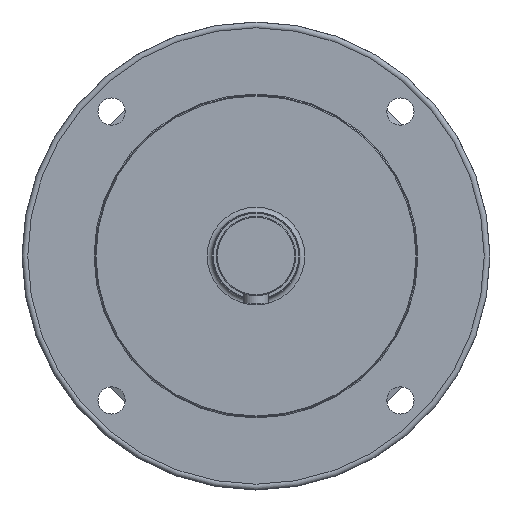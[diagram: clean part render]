
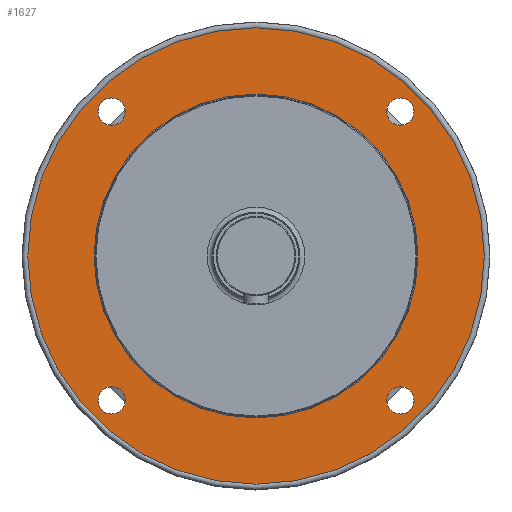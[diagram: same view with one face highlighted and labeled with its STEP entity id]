
A CAD part, front view. The second image highlights one B-rep face of the part: STEP entity #1627.
In plain terms, the highlighted planar face has unit normal (0, -1, 0).
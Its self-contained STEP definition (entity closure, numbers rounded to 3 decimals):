
#151=CARTESIAN_POINT('',(52.836,-274.729,-58.336));
#152=VERTEX_POINT('',#151);
#153=CARTESIAN_POINT('',(58.336,-274.729,-58.336));
#154=DIRECTION('',(0.0,1.0,0.0));
#155=DIRECTION('',(1.0,0.0,0.0));
#156=AXIS2_PLACEMENT_3D('',#153,#154,#155);
#157=CIRCLE('',#156,5.5);
#158=EDGE_CURVE('',#152,#152,#157,.T.);
#179=CARTESIAN_POINT('',(52.836,-274.729,58.336));
#180=VERTEX_POINT('',#179);
#181=CARTESIAN_POINT('',(58.336,-274.729,58.336));
#182=DIRECTION('',(0.0,1.0,0.0));
#183=DIRECTION('',(1.0,0.0,0.0));
#184=AXIS2_PLACEMENT_3D('',#181,#182,#183);
#185=CIRCLE('',#184,5.5);
#186=EDGE_CURVE('',#180,#180,#185,.T.);
#207=CARTESIAN_POINT('',(-63.836,-274.729,-58.336));
#208=VERTEX_POINT('',#207);
#209=CARTESIAN_POINT('',(-58.336,-274.729,-58.336));
#210=DIRECTION('',(0.0,1.0,0.0));
#211=DIRECTION('',(1.0,0.0,0.0));
#212=AXIS2_PLACEMENT_3D('',#209,#210,#211);
#213=CIRCLE('',#212,5.5);
#214=EDGE_CURVE('',#208,#208,#213,.T.);
#235=CARTESIAN_POINT('',(-63.836,-274.729,58.336));
#236=VERTEX_POINT('',#235);
#237=CARTESIAN_POINT('',(-58.336,-274.729,58.336));
#238=DIRECTION('',(0.0,1.0,0.0));
#239=DIRECTION('',(1.0,0.0,0.0));
#240=AXIS2_PLACEMENT_3D('',#237,#238,#239);
#241=CIRCLE('',#240,5.5);
#242=EDGE_CURVE('',#236,#236,#241,.T.);
#1581=CARTESIAN_POINT('',(-92.191,-274.729,0.0));
#1582=VERTEX_POINT('',#1581);
#1583=CARTESIAN_POINT('',(0.,-274.729,0.0));
#1584=DIRECTION('',(0.0,-1.0,0.0));
#1585=DIRECTION('',(-1.0,0.0,0.0));
#1586=AXIS2_PLACEMENT_3D('',#1583,#1584,#1585);
#1587=CIRCLE('',#1586,92.191);
#1588=EDGE_CURVE('',#1582,#1582,#1587,.T.);
#1596=CARTESIAN_POINT('',(-78.796,-274.729,0.0));
#1597=DIRECTION('',(0.0,-1.0,0.0));
#1598=DIRECTION('',(0.0,0.0,-1.0));
#1599=AXIS2_PLACEMENT_3D('',#1596,#1597,#1598);
#1600=PLANE('',#1599);
#1601=ORIENTED_EDGE('',*,*,#1588,.T.);
#1602=EDGE_LOOP('',(#1601));
#1603=FACE_OUTER_BOUND('',#1602,.T.);
#1604=ORIENTED_EDGE('',*,*,#158,.T.);
#1605=EDGE_LOOP('',(#1604));
#1606=FACE_BOUND('',#1605,.T.);
#1607=ORIENTED_EDGE('',*,*,#186,.T.);
#1608=EDGE_LOOP('',(#1607));
#1609=FACE_BOUND('',#1608,.T.);
#1610=ORIENTED_EDGE('',*,*,#214,.T.);
#1611=EDGE_LOOP('',(#1610));
#1612=FACE_BOUND('',#1611,.T.);
#1613=ORIENTED_EDGE('',*,*,#242,.T.);
#1614=EDGE_LOOP('',(#1613));
#1615=FACE_BOUND('',#1614,.T.);
#1616=CARTESIAN_POINT('',(-65.4,-274.729,0.0));
#1617=VERTEX_POINT('',#1616);
#1618=CARTESIAN_POINT('',(0.,-274.729,0.0));
#1619=DIRECTION('',(0.0,-1.0,0.0));
#1620=DIRECTION('',(-1.0,0.0,0.0));
#1621=AXIS2_PLACEMENT_3D('',#1618,#1619,#1620);
#1622=CIRCLE('',#1621,65.4);
#1623=EDGE_CURVE('',#1617,#1617,#1622,.T.);
#1624=ORIENTED_EDGE('',*,*,#1623,.F.);
#1625=EDGE_LOOP('',(#1624));
#1626=FACE_BOUND('',#1625,.T.);
#1627=ADVANCED_FACE('',(#1603,#1606,#1609,#1612,#1615,#1626),#1600,.T.);
